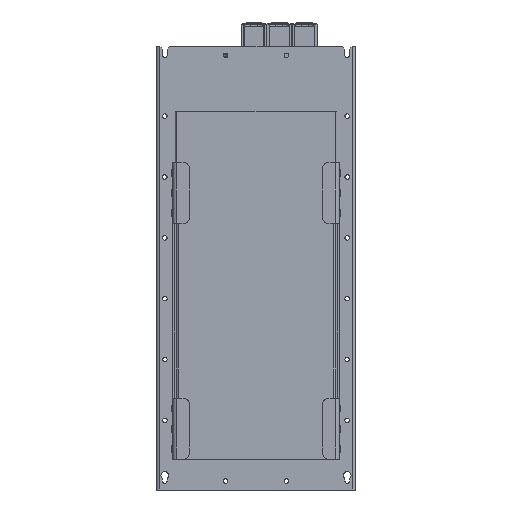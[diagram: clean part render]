
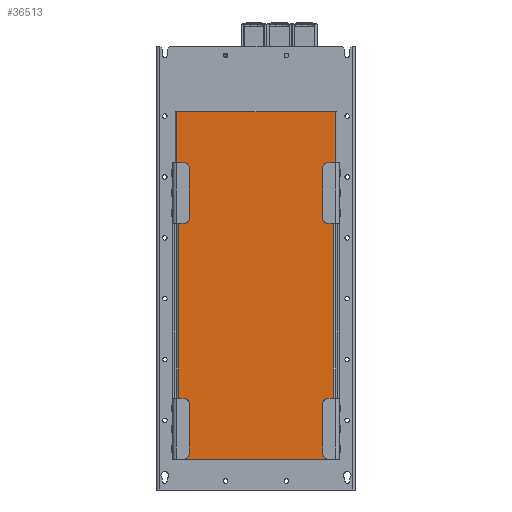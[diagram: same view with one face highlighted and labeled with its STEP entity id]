
A CAD part, front view. The second image highlights one B-rep face of the part: STEP entity #36513.
In plain terms, the highlighted planar face has unit normal (0, -1, 0).
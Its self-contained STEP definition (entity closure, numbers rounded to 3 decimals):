
#805 = CARTESIAN_POINT ( 'NONE',  ( 153., -125., -400. ) ) ;
#1651 = ORIENTED_EDGE ( 'NONE', *, *, #28804, .T. ) ;
#3565 = EDGE_CURVE ( 'NONE', #59925, #46555, #67477, .T. ) ;
#8402 = DIRECTION ( 'NONE',  ( -1., 0., 0. ) ) ;
#9570 = VECTOR ( 'NONE', #28977, 1000. ) ;
#12459 = VECTOR ( 'NONE', #95852, 1000. ) ;
#13674 = CARTESIAN_POINT ( 'NONE',  ( -155.9, -125., 500. ) ) ;
#16030 = CARTESIAN_POINT ( 'NONE',  ( 155.9, -125., 400. ) ) ;
#19382 = CARTESIAN_POINT ( 'NONE',  ( -203.788, -125., -185. ) ) ;
#19642 = EDGE_CURVE ( 'NONE', #46555, #82767, #26341, .T. ) ;
#25807 = EDGE_CURVE ( 'NONE', #74333, #89315, #45196, .T. ) ;
#25988 = DIRECTION ( 'NONE',  ( 0., 0., -1. ) ) ;
#26341 = LINE ( 'NONE', #19382, #12459 ) ;
#26799 = VECTOR ( 'NONE', #93687, 1000. ) ;
#28804 = EDGE_CURVE ( 'NONE', #80674, #59925, #78765, .T. ) ;
#28977 = DIRECTION ( 'NONE',  ( 1., 0., 0. ) ) ;
#31857 = DIRECTION ( 'NONE',  ( 0., 0., 1. ) ) ;
#33309 = CARTESIAN_POINT ( 'NONE',  ( 155.9, -125., 400. ) ) ;
#33346 = ORIENTED_EDGE ( 'NONE', *, *, #74970, .T. ) ;
#33450 = FACE_OUTER_BOUND ( 'NONE', #58162, .T. ) ;
#34095 = ORIENTED_EDGE ( 'NONE', *, *, #19642, .T. ) ;
#34722 = CARTESIAN_POINT ( 'NONE',  ( 155.9, -125., 500. ) ) ;
#36513 = ADVANCED_FACE ( 'NONE', ( #33450 ), #70748, .T. ) ;
#39775 = LINE ( 'NONE', #33309, #79985 ) ;
#40257 = VECTOR ( 'NONE', #8402, 1000. ) ;
#40767 = CARTESIAN_POINT ( 'NONE',  ( -153., -125., 400. ) ) ;
#40887 = VECTOR ( 'NONE', #91153, 1000. ) ;
#43880 = CARTESIAN_POINT ( 'NONE',  ( -155.9, -125., 400. ) ) ;
#44379 = ORIENTED_EDGE ( 'NONE', *, *, #3565, .T. ) ;
#45196 = LINE ( 'NONE', #60107, #40257 ) ;
#46440 = CARTESIAN_POINT ( 'NONE',  ( -155.9, -125., 400. ) ) ;
#46555 = VERTEX_POINT ( 'NONE', #79281 ) ;
#48021 = LINE ( 'NONE', #805, #26799 ) ;
#48481 = CARTESIAN_POINT ( 'NONE',  ( 153., -125., -185. ) ) ;
#48504 = LINE ( 'NONE', #43880, #9570 ) ;
#49301 = CARTESIAN_POINT ( 'NONE',  ( 153., -125., 400. ) ) ;
#49878 = VERTEX_POINT ( 'NONE', #49301 ) ;
#51951 = ORIENTED_EDGE ( 'NONE', *, *, #25807, .T. ) ;
#53703 = ORIENTED_EDGE ( 'NONE', *, *, #89138, .T. ) ;
#53952 = LINE ( 'NONE', #60903, #40887 ) ;
#55026 = EDGE_CURVE ( 'NONE', #49878, #84192, #48504, .T. ) ;
#57365 = ORIENTED_EDGE ( 'NONE', *, *, #71117, .T. ) ;
#58162 = EDGE_LOOP ( 'NONE', ( #57365, #51951, #33346, #1651, #44379, #34095, #53703, #67598 ) ) ;
#58334 = VECTOR ( 'NONE', #66002, 1000. ) ;
#59925 = VERTEX_POINT ( 'NONE', #40767 ) ;
#60107 = CARTESIAN_POINT ( 'NONE',  ( -159.4, -125., 500. ) ) ;
#60903 = CARTESIAN_POINT ( 'NONE',  ( -155.9, -125., 500. ) ) ;
#63767 = CARTESIAN_POINT ( 'NONE',  ( 0., -125., 500. ) ) ;
#64949 = VECTOR ( 'NONE', #92194, 1000. ) ;
#66002 = DIRECTION ( 'NONE',  ( 0., 0., -1. ) ) ;
#66503 = CARTESIAN_POINT ( 'NONE',  ( -153., -125., 400. ) ) ;
#67477 = LINE ( 'NONE', #66503, #58334 ) ;
#67598 = ORIENTED_EDGE ( 'NONE', *, *, #55026, .T. ) ;
#69888 = CARTESIAN_POINT ( 'NONE',  ( -155.9, -125., 400. ) ) ;
#70748 = PLANE ( 'NONE',  #97601 ) ;
#71117 = EDGE_CURVE ( 'NONE', #84192, #74333, #39775, .T. ) ;
#74333 = VERTEX_POINT ( 'NONE', #34722 ) ;
#74970 = EDGE_CURVE ( 'NONE', #89315, #80674, #53952, .T. ) ;
#78765 = LINE ( 'NONE', #69888, #64949 ) ;
#79281 = CARTESIAN_POINT ( 'NONE',  ( -153., -125., -185. ) ) ;
#79985 = VECTOR ( 'NONE', #31857, 1000. ) ;
#80674 = VERTEX_POINT ( 'NONE', #46440 ) ;
#82767 = VERTEX_POINT ( 'NONE', #48481 ) ;
#84192 = VERTEX_POINT ( 'NONE', #16030 ) ;
#89138 = EDGE_CURVE ( 'NONE', #82767, #49878, #48021, .T. ) ;
#89315 = VERTEX_POINT ( 'NONE', #13674 ) ;
#91153 = DIRECTION ( 'NONE',  ( 0., 0., -1. ) ) ;
#92194 = DIRECTION ( 'NONE',  ( 1., 0., 0. ) ) ;
#93687 = DIRECTION ( 'NONE',  ( 0., 0., 1. ) ) ;
#94032 = DIRECTION ( 'NONE',  ( 0., -1., 0. ) ) ;
#95852 = DIRECTION ( 'NONE',  ( 1., 0., 0. ) ) ;
#97601 = AXIS2_PLACEMENT_3D ( 'NONE', #63767, #94032, #25988 ) ;
